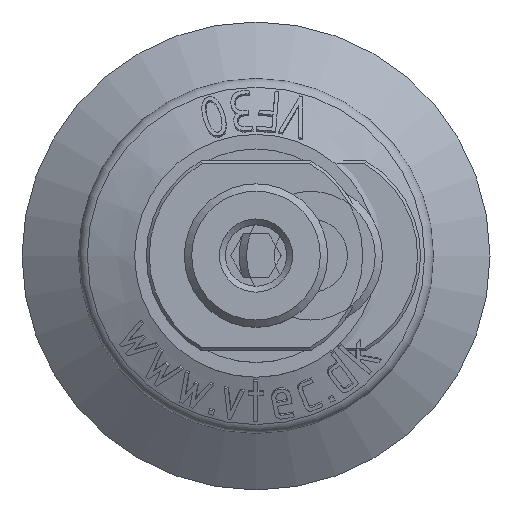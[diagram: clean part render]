
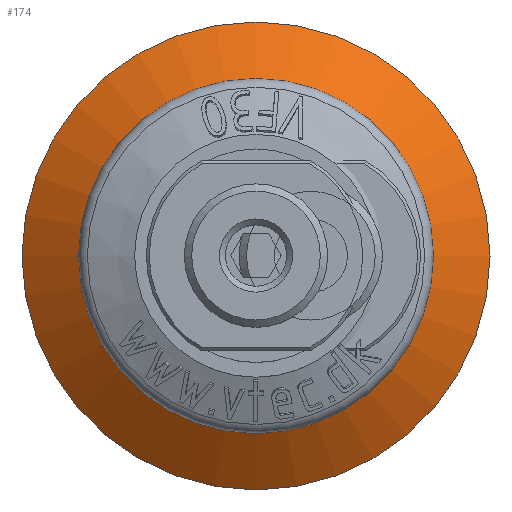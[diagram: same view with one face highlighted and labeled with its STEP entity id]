
A CAD part, top view. The second image highlights one B-rep face of the part: STEP entity #174.
In plain terms, the highlighted conical face has half-angle 53.66 degrees and reference radius 12.136 mm.
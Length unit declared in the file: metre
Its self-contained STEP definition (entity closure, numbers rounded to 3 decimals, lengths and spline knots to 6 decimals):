
#174 = ADVANCED_FACE( '', ( #416, #417 ), #418, .T. );
#416 = FACE_BOUND( '', #945, .T. );
#417 = FACE_OUTER_BOUND( '', #946, .T. );
#418 = CONICAL_SURFACE( '', #947, 0.012136, 0.937 );
#945 = EDGE_LOOP( '', ( #5331 ) );
#946 = EDGE_LOOP( '', ( #5332 ) );
#947 = AXIS2_PLACEMENT_3D( '', #5333, #5334, #5335 );
#5331 = ORIENTED_EDGE( '', *, *, #6702, .F. );
#5332 = ORIENTED_EDGE( '', *, *, #6703, .T. );
#5333 = CARTESIAN_POINT( '', ( 0., 0., -0.002158 ) );
#5334 = DIRECTION( '', ( 0., 0., -1. ) );
#5335 = DIRECTION( '', ( -1., 0., 0. ) );
#6702 = EDGE_CURVE( '', #7261, #7261, #7262, .T. );
#6703 = EDGE_CURVE( '', #7263, #7263, #7264, .T. );
#7261 = VERTEX_POINT( '', #8347 );
#7262 = CIRCLE( '', #8348, 0.012136 );
#7263 = VERTEX_POINT( '', #8349 );
#7264 = CIRCLE( '', #8350, 0.016 );
#8347 = CARTESIAN_POINT( '', ( 0.012136, 0., -0.002158 ) );
#8348 = AXIS2_PLACEMENT_3D( '', #11513, #11514, #11515 );
#8349 = CARTESIAN_POINT( '', ( 0.016, 0., -0.005 ) );
#8350 = AXIS2_PLACEMENT_3D( '', #11516, #11517, #11518 );
#11513 = CARTESIAN_POINT( '', ( 0., 0., -0.002158 ) );
#11514 = DIRECTION( '', ( 0., 0., 1. ) );
#11515 = DIRECTION( '', ( 1., 0., 0. ) );
#11516 = CARTESIAN_POINT( '', ( 0., 0., -0.005 ) );
#11517 = DIRECTION( '', ( 0., 0., 1. ) );
#11518 = DIRECTION( '', ( 1., 0., 0. ) );
